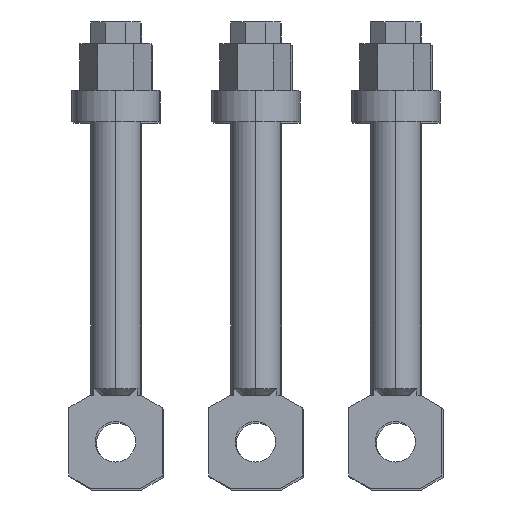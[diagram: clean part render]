
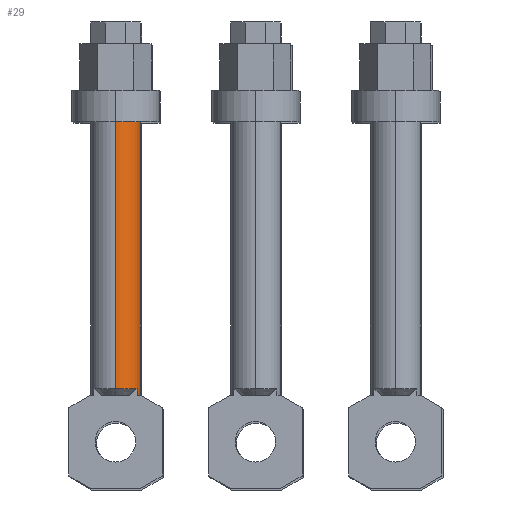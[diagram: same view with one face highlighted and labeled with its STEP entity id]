
A CAD part, front view. The second image highlights one B-rep face of the part: STEP entity #29.
In plain terms, the highlighted cylindrical face has radius 8 mm (diameter 16 mm), a partial arc.
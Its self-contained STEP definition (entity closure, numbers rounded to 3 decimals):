
#5 = AXIS2_PLACEMENT_3D ( 'NONE', #1367, #1481, #1356 ) ;
#12 = CIRCLE ( 'NONE', #5, 8. ) ;
#24 = AXIS2_PLACEMENT_3D ( 'NONE', #1419, #430, #664 ) ;
#29 = ADVANCED_FACE ( 'NONE', ( #1147 ), #984, .T. ) ;
#37 = VERTEX_POINT ( 'NONE', #163 ) ;
#47 = LINE ( 'NONE', #1082, #1454 ) ;
#91 = DIRECTION ( 'NONE',  ( 0., 0., -1. ) ) ;
#146 = DIRECTION ( 'NONE',  ( 0., 0., -1. ) ) ;
#153 = ORIENTED_EDGE ( 'NONE', *, *, #453, .T. ) ;
#154 = VERTEX_POINT ( 'NONE', #1497 ) ;
#163 = CARTESIAN_POINT ( 'NONE',  ( 6.928, -120., -4. ) ) ;
#223 = CARTESIAN_POINT ( 'NONE',  ( 0., -118., 8. ) ) ;
#243 = VERTEX_POINT ( 'NONE', #1243 ) ;
#250 = DIRECTION ( 'NONE',  ( 0., 0., -1. ) ) ;
#253 = CARTESIAN_POINT ( 'NONE',  ( 0., -120., 0. ) ) ;
#339 = ORIENTED_EDGE ( 'NONE', *, *, #796, .T. ) ;
#366 = DIRECTION ( 'NONE',  ( 0., -1., 0. ) ) ;
#378 = CARTESIAN_POINT ( 'NONE',  ( 0., -27.5, 8. ) ) ;
#409 = DIRECTION ( 'NONE',  ( 0., 1., 0. ) ) ;
#417 = VECTOR ( 'NONE', #846, 1000. ) ;
#430 = DIRECTION ( 'NONE',  ( 0., 1., 0. ) ) ;
#435 = AXIS2_PLACEMENT_3D ( 'NONE', #1154, #581, #250 ) ;
#447 = VERTEX_POINT ( 'NONE', #939 ) ;
#453 = EDGE_CURVE ( 'NONE', #243, #154, #1021, .T. ) ;
#466 = CARTESIAN_POINT ( 'NONE',  ( 6.928, -118., 4. ) ) ;
#471 = EDGE_CURVE ( 'NONE', #37, #1463, #1362, .T. ) ;
#499 = EDGE_LOOP ( 'NONE', ( #1448, #153, #339, #914, #1077, #1128, #1242, #839 ) ) ;
#512 = DIRECTION ( 'NONE',  ( 0., 1., 0. ) ) ;
#526 = CARTESIAN_POINT ( 'NONE',  ( 6.928, -120., -4. ) ) ;
#560 = DIRECTION ( 'NONE',  ( 0., -1., 0. ) ) ;
#570 = VECTOR ( 'NONE', #1092, 1000. ) ;
#581 = DIRECTION ( 'NONE',  ( 0., 1., 0. ) ) ;
#606 = EDGE_CURVE ( 'NONE', #895, #1463, #1106, .T. ) ;
#640 = EDGE_CURVE ( 'NONE', #37, #447, #918, .T. ) ;
#664 = DIRECTION ( 'NONE',  ( 0., 0., 1. ) ) ;
#770 = CIRCLE ( 'NONE', #435, 8. ) ;
#796 = EDGE_CURVE ( 'NONE', #154, #1084, #904, .T. ) ;
#839 = ORIENTED_EDGE ( 'NONE', *, *, #640, .T. ) ;
#846 = DIRECTION ( 'NONE',  ( 0., 1., 0. ) ) ;
#895 = VERTEX_POINT ( 'NONE', #466 ) ;
#904 = CIRCLE ( 'NONE', #1435, 8. ) ;
#914 = ORIENTED_EDGE ( 'NONE', *, *, #1311, .F. ) ;
#918 = LINE ( 'NONE', #526, #972 ) ;
#939 = CARTESIAN_POINT ( 'NONE',  ( 6.928, -118., -4. ) ) ;
#947 = EDGE_CURVE ( 'NONE', #1467, #895, #770, .T. ) ;
#972 = VECTOR ( 'NONE', #409, 1000. ) ;
#984 = CYLINDRICAL_SURFACE ( 'NONE', #24, 8. ) ;
#1018 = CARTESIAN_POINT ( 'NONE',  ( 0., -27.5, 0. ) ) ;
#1021 = LINE ( 'NONE', #1064, #417 ) ;
#1028 = CARTESIAN_POINT ( 'NONE',  ( 6.928, -120., 4. ) ) ;
#1064 = CARTESIAN_POINT ( 'NONE',  ( 0., -120., -8. ) ) ;
#1077 = ORIENTED_EDGE ( 'NONE', *, *, #947, .T. ) ;
#1082 = CARTESIAN_POINT ( 'NONE',  ( 0., -120., 8. ) ) ;
#1084 = VERTEX_POINT ( 'NONE', #378 ) ;
#1092 = DIRECTION ( 'NONE',  ( 0., -1., 0. ) ) ;
#1098 = AXIS2_PLACEMENT_3D ( 'NONE', #253, #366, #146 ) ;
#1106 = LINE ( 'NONE', #1442, #570 ) ;
#1128 = ORIENTED_EDGE ( 'NONE', *, *, #606, .T. ) ;
#1147 = FACE_OUTER_BOUND ( 'NONE', #499, .T. ) ;
#1154 = CARTESIAN_POINT ( 'NONE',  ( 0., -118., 0. ) ) ;
#1242 = ORIENTED_EDGE ( 'NONE', *, *, #471, .F. ) ;
#1243 = CARTESIAN_POINT ( 'NONE',  ( 0., -118., -8. ) ) ;
#1311 = EDGE_CURVE ( 'NONE', #1467, #1084, #47, .T. ) ;
#1339 = EDGE_CURVE ( 'NONE', #447, #243, #12, .T. ) ;
#1356 = DIRECTION ( 'NONE',  ( 0., 0., -1. ) ) ;
#1362 = CIRCLE ( 'NONE', #1098, 8. ) ;
#1367 = CARTESIAN_POINT ( 'NONE',  ( 0., -118., 0. ) ) ;
#1419 = CARTESIAN_POINT ( 'NONE',  ( 0., -120., 0. ) ) ;
#1435 = AXIS2_PLACEMENT_3D ( 'NONE', #1018, #560, #91 ) ;
#1442 = CARTESIAN_POINT ( 'NONE',  ( 6.928, -118., 4. ) ) ;
#1448 = ORIENTED_EDGE ( 'NONE', *, *, #1339, .T. ) ;
#1454 = VECTOR ( 'NONE', #512, 1000. ) ;
#1463 = VERTEX_POINT ( 'NONE', #1028 ) ;
#1467 = VERTEX_POINT ( 'NONE', #223 ) ;
#1481 = DIRECTION ( 'NONE',  ( 0., 1., 0. ) ) ;
#1497 = CARTESIAN_POINT ( 'NONE',  ( 0., -27.5, -8. ) ) ;
